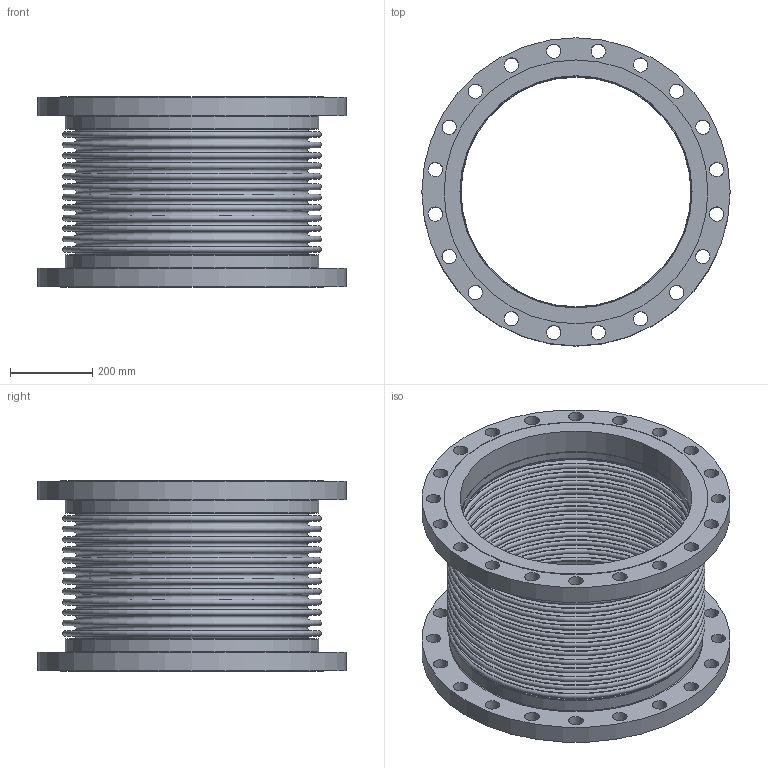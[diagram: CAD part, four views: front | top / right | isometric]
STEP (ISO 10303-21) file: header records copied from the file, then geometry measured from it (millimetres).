
FILE_DESCRIPTION(/* description */ ('EXPANSION JOINT,SINGLE, FLANGED ENDS,22 INCH','CAx-IF Rec.Pracs.---Representation and Presentation of Product Manufacturing Information (PMI)---4.0---2014-10-13'),/* implementation_level */ '2;1');
FILE_NAME(/* name */ 'US-22-12-150L-FLANGED ENDS.stp',/* time_stamp */ '2026-07-31T17:43:11-05:00',/* author */ ('Guadalupe'),/* organization */ (''),/* preprocessor_version */ 'ST-DEVELOPER v20.1',/* originating_system */ 'Autodesk Inventor 2026',/* authorisation */ '');
FILE_SCHEMA (('AP242_MANAGED_MODEL_BASED_3D_ENGINEERING_MIM_LF { 1 0 10303 442 2 1 4 }'));
Length unit declared in the file: inch
Products named in the file (3): 22-150L; 22-150L-02; 22-150L-01
Assembly tree (3 placements, depth 2):
  22-150L
    22-150L-02  x2
    22-150L-01
Bounding box: 749.3 x 749.3 x 463.8 mm (x, y, z)
Volume: 21560488.9 mm3; surface area: 5293323.1 mm2
Topology: 5 solids, 5 shells, 168 faces, 318 edges, 212 vertices
Faces by surface type: plane 62, torus 54, cylinder 52
Full cylindrical faces by diameter (mm): 34.925 x40, 558.8 x2, 561.848 x2, 564.388 x2, 615.95 x2, 641.35 x2, 749.3 x2
Entity records: 3762 total; most frequent: DIRECTION 766, CARTESIAN_POINT 561, ORIENTED_EDGE 480, AXIS2_PLACEMENT_3D 369, EDGE_CURVE 240, EDGE_LOOP 236, CIRCLE 212, VERTEX_POINT 160
